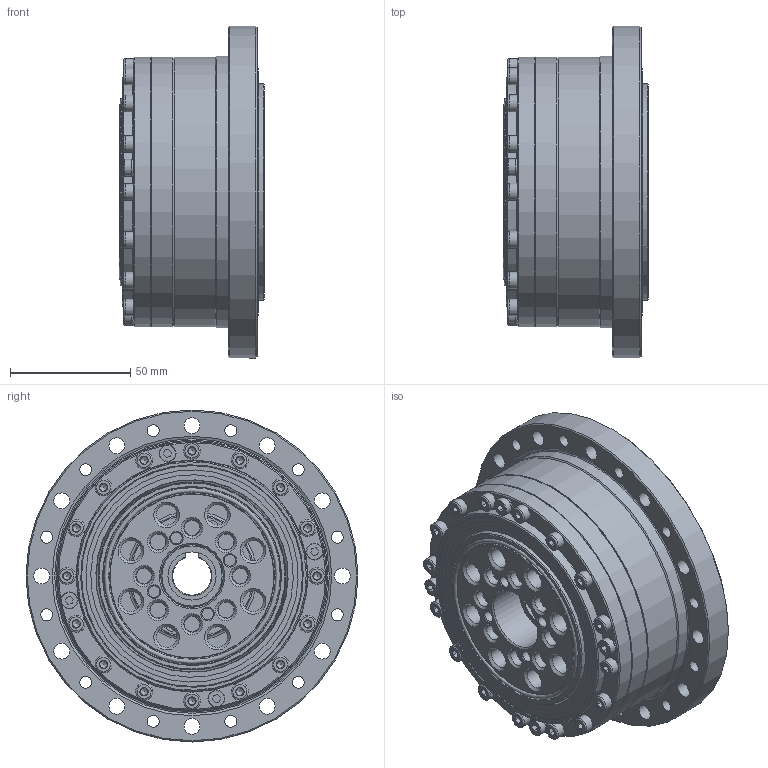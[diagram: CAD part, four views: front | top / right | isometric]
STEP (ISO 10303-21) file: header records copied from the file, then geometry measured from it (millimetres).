
FILE_DESCRIPTION(/* description */ (''),/* implementation_level */ '2;1');
FILE_NAME(/* name */ 'Getriebeset_CTG_Plus_BG81_FK.stp',/* time_stamp */ '2026-03-10T14:16:07+01:00',/* author */ (''),/* organization */ (''),/* preprocessor_version */ 'ST-DEVELOPER v19.4',/* originating_system */ 'SIEMENS PLM Software NX2212.9120',/* authorisation */ '');
FILE_SCHEMA (('AUTOMOTIVE_DESIGN { 1 0 10303 214 3 1 1 1 }'));
Length unit declared in the file: millimetre
Products named in the file (1): Getriebeset_CTG_Plus_BG81_FK
Bounding box: 60.38 x 138 x 138 mm (x, y, z)
Volume: 428767.9 mm3; surface area: 227710.3 mm2
Topology: 109 solids, 110 shells, 1380 faces, 2981 edges, 1839 vertices
Faces by surface type: plane 500, cylinder 342, cone 338, torus 152, sphere 27, bspline 21
Full cylindrical faces by diameter (mm): 3.3 x20, 4 x20, 4.3 x2, 4.6 x36, 4.8 x4, 5 x16, 6 x48, 6.6 x12, 6.7 x4, 6.8 x8, 7 x20, 8 x8, 8.5 x8, 9 x24, 13 x8, 20 x1, 22.5 x1, 26 x4, 52 x3, 54.06 x1, 55 x1, 56 x1, 59 x2, 63 x1, 63.3 x2, 68.4 x1, 70 x1, 71 x1, 74.1 x1, 75.5 x2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
Entity records: 35736 total; most frequent: CARTESIAN_POINT 8747, DIRECTION 5631, ORIENTED_EDGE 3950, AXIS2_PLACEMENT_3D 2588, EDGE_LOOP 2362, EDGE_CURVE 1975, FACE_BOUND 1889, VERTEX_POINT 1616
